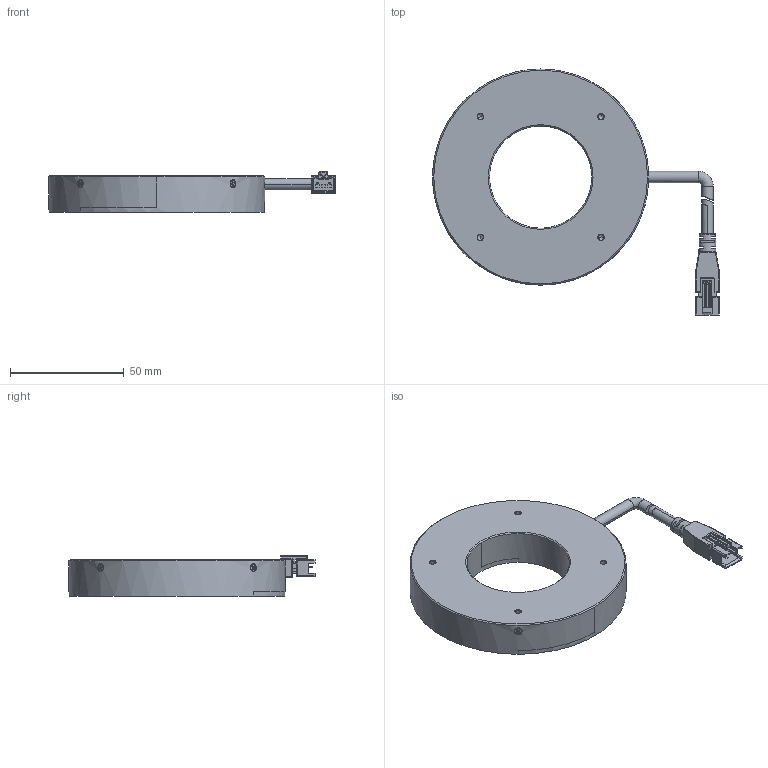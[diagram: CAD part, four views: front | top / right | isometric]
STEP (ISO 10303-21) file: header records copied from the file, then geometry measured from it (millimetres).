
FILE_DESCRIPTION((''),'2;1');
FILE_NAME('MV-LRDS-95-90-X_ASM','2023-09-15T13:41:09',('qiaoxuan5'),(''),'CREO PARAMETRIC BY PTC INC, 2020044','CREO PARAMETRIC BY PTC INC, 2020044','');
FILE_SCHEMA(('CONFIG_CONTROL_DESIGN','SHAPE_APPEARANCE_LAYERS_GROUPS'));
Length unit declared in the file: millimetre
Products named in the file (1): MV-LRDS-95-90-X_ASM
Bounding box: 126.05 x 108.16 x 17.7 mm (x, y, z)
Volume: 84892.2 mm3; surface area: 33858.6 mm2
Topology: 2 solids, 6 shells, 527 faces, 1360 edges, 846 vertices
Faces by surface type: plane 280, cylinder 161, cone 58, torus 10, sphere 8, bspline 8, extrusion 2
Entity records: 18164 total; most frequent: CARTESIAN_POINT 4431, DIRECTION 2676, ORIENTED_EDGE 2672, EDGE_CURVE 1336, AXIS2_PLACEMENT_3D 923, VERTEX_POINT 846, VECTOR 830, LINE 828
